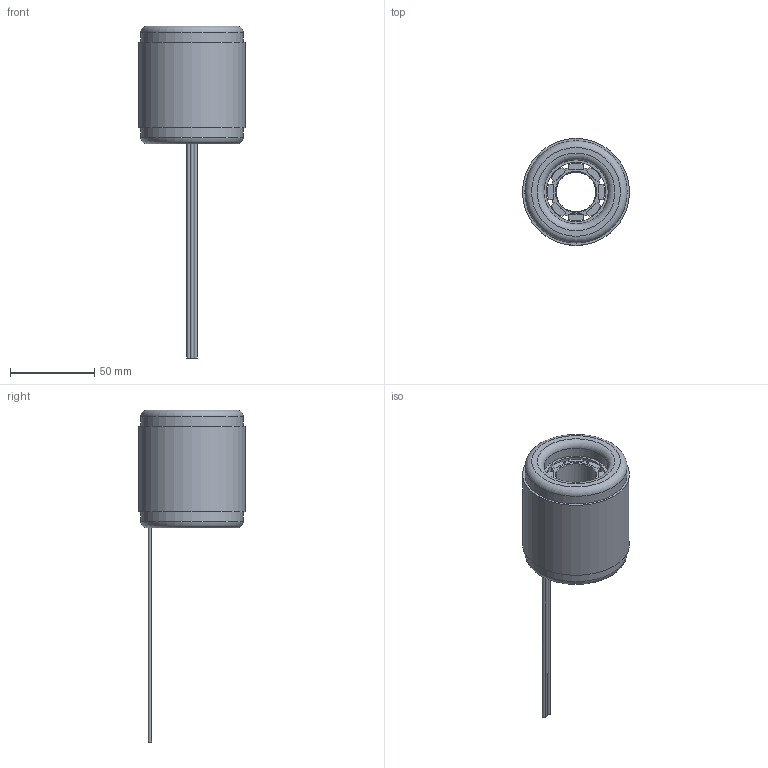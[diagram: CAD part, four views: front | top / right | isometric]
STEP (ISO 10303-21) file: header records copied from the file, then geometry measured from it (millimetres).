
FILE_DESCRIPTION(/* description */ (''),/* implementation_level */ '2;1');
FILE_NAME(/* name */ 'C:\CAD_Work\Designs\EMN\EMN-Unrestricted\New Ulm\STEP FILES\K064200-XX1.stp',/* time_stamp */ '2015-04-07T08:48:49-05:00',/* author */ ('ALA4428'),/* organization */ (''),/* preprocessor_version */ 'ST-DEVELOPER v15.2',/* originating_system */ 'Autodesk Inventor 2014',/* authorisation */ '');
FILE_SCHEMA (('AUTOMOTIVE_DESIGN { 1 0 10303 214 3 1 1 }'));
Length unit declared in the file: millimetre
Products named in the file (6): W064200-XX1; 064200-XX1; 330-64000-200; 930-00092-06; 320-64000-200; K064XXX-XX1
Bounding box: 63.5 x 63.5 x 197 mm (x, y, z)
Volume: 165163.2 mm3; surface area: 49010 mm2
Topology: 34 solids, 34 shells, 284 faces, 619 edges, 408 vertices
Faces by surface type: plane 227, cylinder 51, torus 4, cone 2
Full cylindrical faces by diameter (mm): 2 x2, 23.495 x1, 35.052 x1, 38.1 x2, 60.7 x2, 63.5 x1
Entity records: 3285 total; most frequent: DIRECTION 560, CARTESIAN_POINT 534, ORIENTED_EDGE 472, EDGE_CURVE 234, LINE 188, VECTOR 188, AXIS2_PLACEMENT_3D 186, VERTEX_POINT 160
